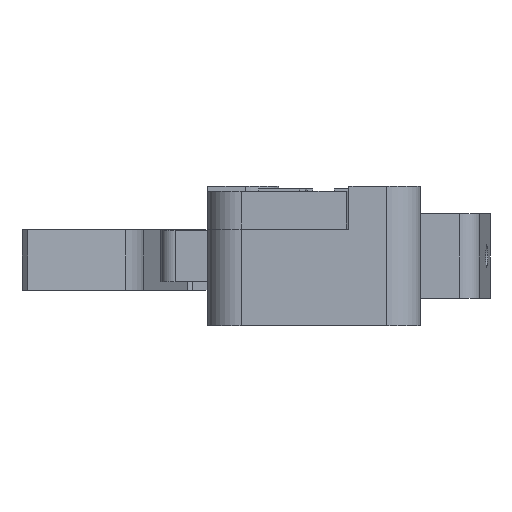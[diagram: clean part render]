
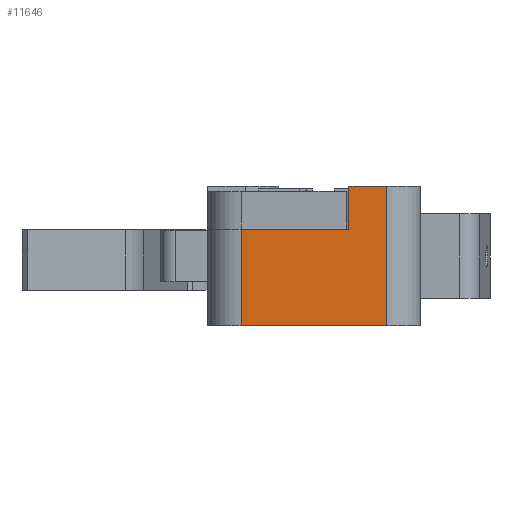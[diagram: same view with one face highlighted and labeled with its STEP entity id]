
A CAD part, left-side view. The second image highlights one B-rep face of the part: STEP entity #11646.
In plain terms, the highlighted planar face has unit normal (-1, 0, 0).
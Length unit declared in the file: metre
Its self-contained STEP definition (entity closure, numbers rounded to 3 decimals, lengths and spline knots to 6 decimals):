
#11505=CARTESIAN_POINT('',(-0.027238,-0.017123,0.033313));
#11506=VERTEX_POINT('',#11505);
#11540=CARTESIAN_POINT('',(-0.027238,-0.014323,0.033313));
#11541=VERTEX_POINT('',#11540);
#11544=CARTESIAN_POINT('',(-0.027238,-0.014323,0.033313));
#11545=DIRECTION('',(0.,-1.,0.));
#11546=VECTOR('',#11545,1.);
#11547=LINE('',#11544,#11546);
#11548=EDGE_CURVE('',#11541,#11506,#11547,.T.);
#11577=CARTESIAN_POINT('',(-0.027238,-0.017123,0.022913));
#11578=VERTEX_POINT('',#11577);
#11590=CARTESIAN_POINT('',(-0.027238,-0.017123,0.033313));
#11591=DIRECTION('',(0.,0.,-1.));
#11592=VECTOR('',#11591,1.);
#11593=LINE('',#11590,#11592);
#11594=EDGE_CURVE('',#11506,#11578,#11593,.T.);
#11607=CARTESIAN_POINT('',(-0.027238,-0.014323,0.033313));
#11608=DIRECTION('',(1.,0.,0.));
#11609=DIRECTION('',(0.,1.,0.));
#11610=AXIS2_PLACEMENT_3D('',#11607,#11608,#11609);
#11611=PLANE('',#11610);
#11612=CARTESIAN_POINT('',(-0.027238,-0.014323,0.022913));
#11613=DIRECTION('',(0.,-1.,0.));
#11614=VECTOR('',#11613,1.);
#11615=LINE('',#11612,#11614);
#11616=CARTESIAN_POINT('',(-0.027238,-0.006323,0.022913));
#11617=VERTEX_POINT('',#11616);
#11618=EDGE_CURVE('',#11617,#11578,#11615,.T.);
#11619=ORIENTED_EDGE('',*,*,#11618,.T.);
#11620=ORIENTED_EDGE('',*,*,#11594,.F.);
#11621=ORIENTED_EDGE('',*,*,#11548,.F.);
#11622=CARTESIAN_POINT('',(-0.027238,-0.014323,0.033313));
#11623=DIRECTION('',(0.,0.,-1.));
#11624=VECTOR('',#11623,1.);
#11625=LINE('',#11622,#11624);
#11626=CARTESIAN_POINT('',(-0.027238,-0.014323,0.030113));
#11627=VERTEX_POINT('',#11626);
#11628=EDGE_CURVE('',#11541,#11627,#11625,.T.);
#11629=ORIENTED_EDGE('',*,*,#11628,.T.);
#11630=CARTESIAN_POINT('',(-0.027238,-0.011723,0.030113));
#11631=DIRECTION('',(0.,-1.,0.));
#11632=VECTOR('',#11631,1.);
#11633=LINE('',#11630,#11632);
#11634=CARTESIAN_POINT('',(-0.027238,-0.006323,0.030113));
#11635=VERTEX_POINT('',#11634);
#11636=EDGE_CURVE('',#11635,#11627,#11633,.T.);
#11637=ORIENTED_EDGE('',*,*,#11636,.F.);
#11638=CARTESIAN_POINT('',(-0.027238,-0.006323,0.030113));
#11639=DIRECTION('',(0.,0.,-1.));
#11640=VECTOR('',#11639,1.);
#11641=LINE('',#11638,#11640);
#11642=EDGE_CURVE('',#11635,#11617,#11641,.T.);
#11643=ORIENTED_EDGE('',*,*,#11642,.T.);
#11644=EDGE_LOOP('',(#11619,#11620,#11621,#11629,#11637,#11643));
#11645=FACE_BOUND('',#11644,.T.);
#11646=ADVANCED_FACE('',(#11645),#11611,.F.);
